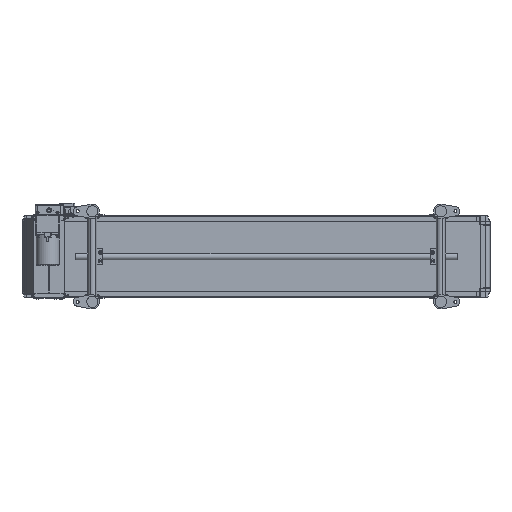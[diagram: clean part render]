
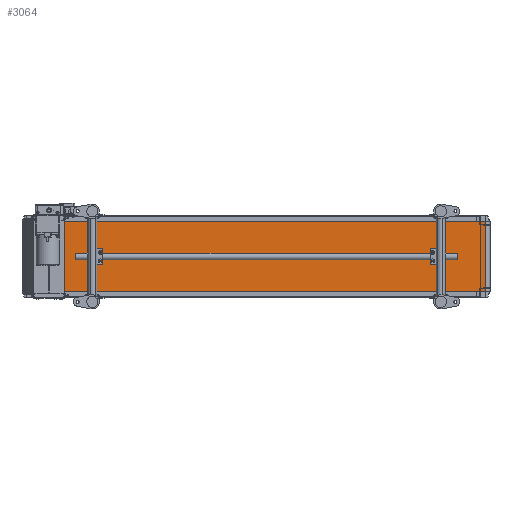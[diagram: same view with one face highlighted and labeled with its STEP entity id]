
A CAD part, front view. The second image highlights one B-rep face of the part: STEP entity #3064.
In plain terms, the highlighted planar face has unit normal (0.019, -1, 0).
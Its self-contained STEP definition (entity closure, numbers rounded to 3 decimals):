
#3064=ADVANCED_FACE('',(#13162),#13161,.F.);
#13161=PLANE('',#29922);
#13162=FACE_OUTER_BOUND('',#29923,.T.);
#29919=CARTESIAN_POINT('',(1992.839,-34.002,-160.));
#29920=DIRECTION('',(-0.02,1.,0.));
#29921=DIRECTION('',(-1.,-0.02,0.));
#29922=AXIS2_PLACEMENT_3D('',#29919,#29920,#29921);
#29923=EDGE_LOOP('',(#40326,#40327,#40328,#40329));
#40326=ORIENTED_EDGE('',*,*,#47882,.T.);
#40327=ORIENTED_EDGE('',*,*,#47883,.F.);
#40328=ORIENTED_EDGE('',*,*,#47884,.F.);
#40329=ORIENTED_EDGE('',*,*,#47885,.T.);
#47882=EDGE_CURVE('',#64778,#64779,#64780,.T.);
#47883=EDGE_CURVE('',#64786,#64779,#64787,.T.);
#47884=EDGE_CURVE('',#64793,#64786,#64794,.T.);
#47885=EDGE_CURVE('',#64793,#64778,#64800,.T.);
#64778=VERTEX_POINT('',#91282);
#64779=VERTEX_POINT('',#91283);
#64780=LINE('',#91284,#91285);
#64786=VERTEX_POINT('',#91287);
#64787=LINE('',#91288,#91289);
#64793=VERTEX_POINT('',#91291);
#64794=LINE('',#91292,#91293);
#64800=LINE('',#91295,#91296);
#91282=CARTESIAN_POINT('',(149.668,-70.003,-150.));
#91283=CARTESIAN_POINT('',(1982.841,-34.197,-150.));
#91284=CARTESIAN_POINT('',(149.668,-70.003,-150.));
#91285=VECTOR('',#91286,1833.522);
#91286=DIRECTION('',(1.,0.02,0.));
#91287=CARTESIAN_POINT('',(1982.841,-34.197,150.));
#91288=CARTESIAN_POINT('',(1982.841,-34.197,150.));
#91289=VECTOR('',#91290,300.);
#91290=DIRECTION('',(0.,0.,-1.));
#91291=CARTESIAN_POINT('',(149.668,-70.003,150.));
#91292=CARTESIAN_POINT('',(149.668,-70.003,150.));
#91293=VECTOR('',#91294,1833.522);
#91294=DIRECTION('',(1.,0.02,0.));
#91295=CARTESIAN_POINT('',(149.668,-70.003,150.));
#91296=VECTOR('',#91297,300.);
#91297=DIRECTION('',(0.,0.,-1.));
